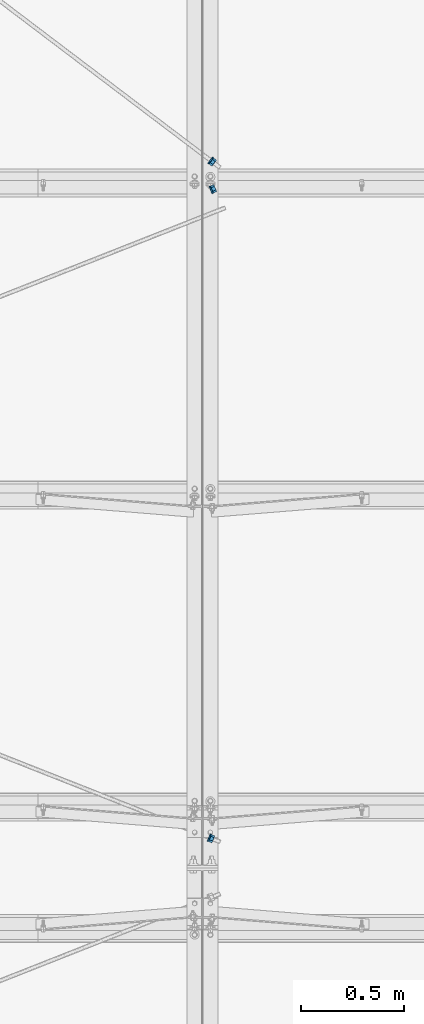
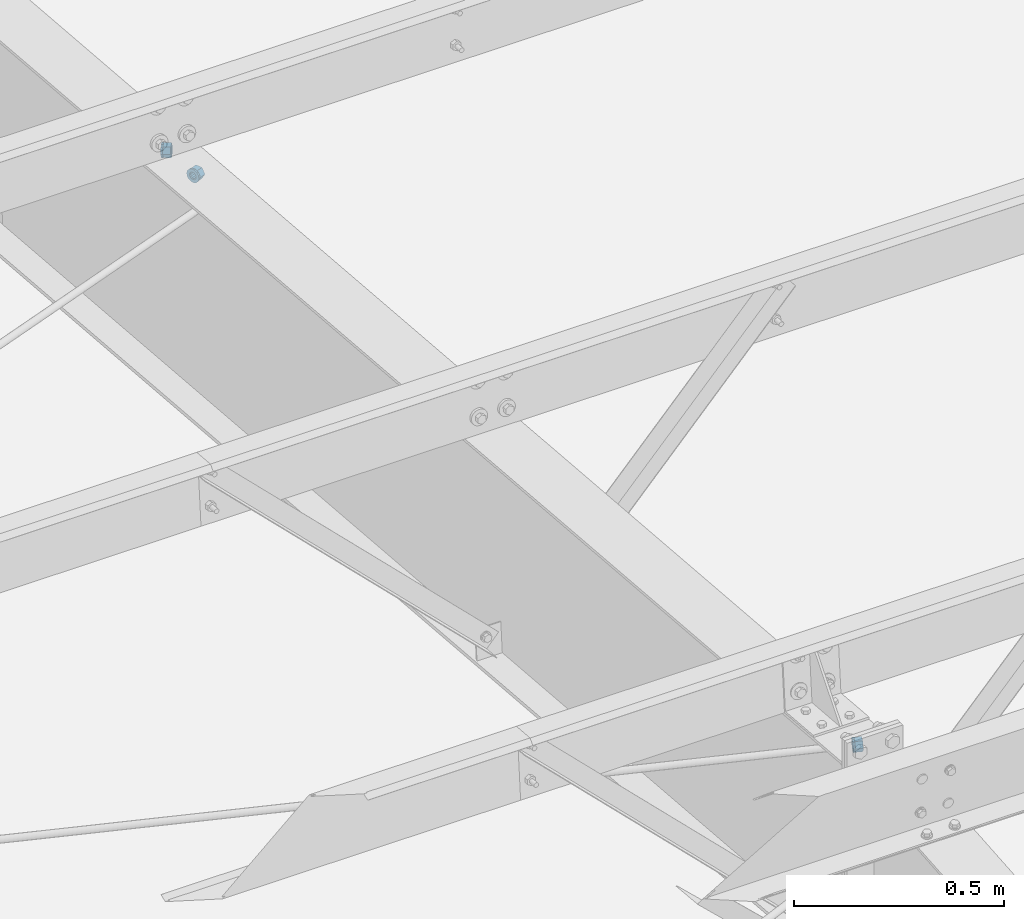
# One storey, part 35 of 185: 6 beams, 6 elements without a shape of their own.
"""IFC2X3 building model written with IfcOpenShell, lengths in millimetres."""

from ifc_helpers import new_model, si_unit, frame, origin_with_axes, place, context, subcontext, project, spatial, polyline, outline, extrude, material, type_object, element, aggregate, save


model = new_model("IFC2X3")

# Units and contexts
model_context = context("Model", 3, precision=1e-05, world=origin_with_axes())
body_context = subcontext(model_context, "Body", "Model", "MODEL_VIEW")
ifc_project = project(units=[si_unit("LENGTHUNIT", "METRE", prefix="MILLI"), si_unit("AREAUNIT", "SQUARE_METRE"), si_unit("VOLUMEUNIT", "CUBIC_METRE"), si_unit("MASSUNIT", "GRAM", prefix="KILO"), si_unit("TIMEUNIT", "SECOND"), si_unit("PLANEANGLEUNIT", "RADIAN"), si_unit("SOLIDANGLEUNIT", "STERADIAN"), si_unit("THERMODYNAMICTEMPERATUREUNIT", "DEGREE_CELSIUS"), si_unit("LUMINOUSINTENSITYUNIT", "LUMEN")], contexts=[model_context])

# Site, building, storey
site_placement = place(None, origin_with_axes())
site = spatial("IfcSite", under=ifc_project, at=site_placement, Name="Undefined", CompositionType="ELEMENT")
building_placement = place(site_placement, origin_with_axes())
building = spatial("IfcBuilding", under=site, at=building_placement, Name="Undefined", CompositionType="ELEMENT")
storey_placement = place(building_placement, origin_with_axes())
storey = spatial("IfcBuildingStorey", under=building, at=storey_placement, Name="Undefined", CompositionType="ELEMENT", Elevation=0.0)

# Assembly, beam
assembly_1_placement = place(storey_placement, origin_with_axes())
assembly_1 = element("IfcElementAssembly", 1, at=assembly_1_placement, inside=storey, Name="Steel Assembly", AssemblyPlace="NOTDEFINED", PredefinedType="RIGID_FRAME")
ifc_material = material(Name="STEEL/55")
beam_type_1 = type_object("IfcBeamType", Name="3/4_HEAVY_HEX_NUT", PredefinedType="NOTDEFINED")
beam_1_placement = place(assembly_1_placement, frame((14903.0751335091, 19301.476985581, 6891.6854132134), z_axis=(0.028926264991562, 0.0123836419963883, 0.999504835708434), x_axis=(0.925462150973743, 0.377531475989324, -0.0314609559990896)))
beam_1 = element("IfcBeam", 2, at=beam_1_placement, type_object=beam_type_1, material=ifc_material, Name="3/4 H HEX NUT A563", ObjectType="3/4_HEAVY_HEX_NUT", context=body_context, shape_type="SweptSolid", body=[
    extrude(outline(polyline([(9.13000011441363, -15.810000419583), (-9.13000011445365, -15.810000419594), (-18.2600002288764, 1.54614099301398e-11), (-9.13000011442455, 15.8100004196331), (9.13000011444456, 15.8100004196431), (18.2600002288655, 3.36513039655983e-11), (9.13000011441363, -15.810000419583)]), holes=[polyline([(-8.06850066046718, 6.43441456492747), (-10.061255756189, 2.29641597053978), (-10.0612557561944, -2.29641597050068), (-8.06850066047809, -6.43441456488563), (-4.47768005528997, -9.29799844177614), (-1.09139364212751e-11, -10.3199996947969), (4.47768005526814, -9.29799844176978), (8.0685006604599, -6.43441456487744), (10.0612557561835, -2.29641597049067), (10.0612557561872, 2.2964159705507), (8.06850066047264, 6.43441456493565), (4.47768005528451, 9.29799844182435), (7.27595761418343e-12, 10.319999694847), (-4.47768005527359, 9.2979984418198), (-8.06850066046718, 6.43441456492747)])]), frame((19.0500000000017, 0.0, 2.58175642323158e-19), z_axis=(-1.0, 0.0, 0.0), x_axis=(0.0, -1.0, 0.0)), (0.0, 0.0, 1.0), 19.0),
])
aggregate(assembly_1, [beam_1])

assembly_2_placement = place(storey_placement, origin_with_axes())
assembly_2 = element("IfcElementAssembly", 3, at=assembly_2_placement, inside=storey, Name="Steel Assembly", AssemblyPlace="NOTDEFINED", PredefinedType="RIGID_FRAME")
beam_2_placement = place(assembly_2_placement, frame((14894.2394819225, 16147.9208032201, 7154.48176375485), z_axis=(0.0288458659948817, -0.0128671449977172, -0.999501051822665), x_axis=(0.924920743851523, -0.378846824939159, 0.0315705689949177)))
beam_2 = element("IfcBeam", 4, at=beam_2_placement, type_object=beam_type_1, material=ifc_material, Name="3/4 H HEX NUT A563", ObjectType="3/4_HEAVY_HEX_NUT", context=body_context, shape_type="SweptSolid", body=[
    extrude(outline(polyline([(9.13000011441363, -15.810000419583), (-9.13000011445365, -15.810000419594), (-18.2600002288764, 1.54614099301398e-11), (-9.13000011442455, 15.8100004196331), (9.13000011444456, 15.8100004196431), (18.2600002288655, 3.36513039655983e-11), (9.13000011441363, -15.810000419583)]), holes=[polyline([(-8.06850066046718, 6.43441456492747), (-10.061255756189, 2.29641597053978), (-10.0612557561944, -2.29641597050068), (-8.06850066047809, -6.43441456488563), (-4.47768005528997, -9.29799844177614), (-1.09139364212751e-11, -10.3199996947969), (4.47768005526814, -9.29799844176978), (8.0685006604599, -6.43441456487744), (10.0612557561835, -2.29641597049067), (10.0612557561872, 2.2964159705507), (8.06850066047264, 6.43441456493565), (4.47768005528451, 9.29799844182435), (7.27595761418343e-12, 10.319999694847), (-4.47768005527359, 9.2979984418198), (-8.06850066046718, 6.43441456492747)])]), frame((19.0500000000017, 0.0, 2.58175642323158e-19), z_axis=(-1.0, 0.0, 0.0), x_axis=(0.0, -1.0, 0.0)), (0.0, 0.0, 1.0), 19.0),
])
aggregate(assembly_2, [beam_2])

assembly_3_placement = place(storey_placement, origin_with_axes())
assembly_3 = element("IfcElementAssembly", 5, at=assembly_3_placement, inside=storey, Name="Steel Assembly", AssemblyPlace="NOTDEFINED", PredefinedType="RIGID_FRAME")
beam_3_placement = place(assembly_3_placement, frame((14900.7089450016, 19441.7536639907, 6879.9956867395), z_axis=(0.0397310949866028, -0.0307690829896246, -0.998736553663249), x_axis=(0.796162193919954, -0.602993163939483, 0.0502494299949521)))
beam_3 = element("IfcBeam", 6, at=beam_3_placement, type_object=beam_type_1, material=ifc_material, Name="3/4 H HEX NUT A563", ObjectType="3/4_HEAVY_HEX_NUT", context=body_context, shape_type="SweptSolid", body=[
    extrude(outline(polyline([(9.13000011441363, -15.810000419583), (-9.13000011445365, -15.810000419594), (-18.2600002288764, 1.54614099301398e-11), (-9.13000011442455, 15.8100004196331), (9.13000011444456, 15.8100004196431), (18.2600002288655, 3.36513039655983e-11), (9.13000011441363, -15.810000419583)]), holes=[polyline([(-8.06850066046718, 6.43441456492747), (-10.061255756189, 2.29641597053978), (-10.0612557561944, -2.29641597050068), (-8.06850066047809, -6.43441456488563), (-4.47768005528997, -9.29799844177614), (-1.09139364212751e-11, -10.3199996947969), (4.47768005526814, -9.29799844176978), (8.0685006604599, -6.43441456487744), (10.0612557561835, -2.29641597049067), (10.0612557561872, 2.2964159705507), (8.06850066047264, 6.43441456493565), (4.47768005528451, 9.29799844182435), (7.27595761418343e-12, 10.319999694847), (-4.47768005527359, 9.2979984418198), (-8.06850066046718, 6.43441456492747)])]), frame((19.0500000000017, 0.0, 2.58175642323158e-19), z_axis=(-1.0, 0.0, 0.0), x_axis=(0.0, -1.0, 0.0)), (0.0, 0.0, 1.0), 19.0),
])
aggregate(assembly_3, [beam_3])

assembly_4_placement = place(storey_placement, origin_with_axes())
assembly_4 = element("IfcElementAssembly", 7, at=assembly_4_placement, inside=storey, Name="Steel Assembly", AssemblyPlace="NOTDEFINED", PredefinedType="RIGID_FRAME")
beam_type_2 = type_object("IfcBeamType", Name="3/4_WASHER", PredefinedType="NOTDEFINED")
beam_4_placement = place(assembly_4_placement, frame((14898.6676200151, 19299.6789919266, 6891.83524601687), z_axis=(0.028926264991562, 0.0123836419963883, 0.999504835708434), x_axis=(0.925462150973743, 0.377531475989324, -0.0314609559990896)))
beam_4 = element("IfcBeam", 8, at=beam_4_placement, type_object=beam_type_2, material=ifc_material, Name="3/4 WASHER F844", ObjectType="3/4_WASHER", context=body_context, shape_type="SweptSolid", body=[
    extrude(outline(polyline([(-11.6280845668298, -14.5811568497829), (-16.8030690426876, -8.09193156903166), (-18.649999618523, -4.54747350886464e-12), (-16.8030690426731, 8.09193156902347), (-11.6280845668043, 14.5811568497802), (-4.15001533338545, 18.1824051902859), (4.15001533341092, 18.1824051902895), (11.628084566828, 14.5811568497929), (16.8030690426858, 8.09193156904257), (18.6499996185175, 1.45519152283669e-11), (16.8030690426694, -8.09193156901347), (11.6280845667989, -14.5811568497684), (4.15001533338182, -18.182405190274), (-4.15001533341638, -18.1824051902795), (-11.6280845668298, -14.5811568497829)]), holes=[polyline([(-8.06850066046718, 6.43441456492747), (-10.061255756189, 2.29641597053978), (-10.0612557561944, -2.29641597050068), (-8.06850066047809, -6.43441456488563), (-4.47768005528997, -9.29799844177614), (-1.09139364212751e-11, -10.3199996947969), (4.47768005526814, -9.29799844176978), (8.0685006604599, -6.43441456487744), (10.0612557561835, -2.29641597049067), (10.0612557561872, 2.2964159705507), (8.06850066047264, 6.43441456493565), (4.47768005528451, 9.29799844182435), (7.27595761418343e-12, 10.319999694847), (-4.47768005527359, 9.2979984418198), (-8.06850066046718, 6.43441456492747)])]), frame((4.76250000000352, 2.6437185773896e-16, 5.6843418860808e-14), z_axis=(-1.0, 0.0, 0.0), x_axis=(0.0, -1.0, 0.0)), (0.0, 0.0, 1.0), 4.8),
])
aggregate(assembly_4, [beam_4])

assembly_5_placement = place(storey_placement, origin_with_axes())
assembly_5 = element("IfcElementAssembly", 9, at=assembly_5_placement, inside=storey, Name="Steel Assembly", AssemblyPlace="NOTDEFINED", PredefinedType="RIGID_FRAME")
beam_5_placement = place(assembly_5_placement, frame((14889.8345468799, 16149.7250612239, 7154.33140892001), z_axis=(0.0288458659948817, -0.0128671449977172, -0.999501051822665), x_axis=(0.924920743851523, -0.378846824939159, 0.0315705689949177)))
beam_5 = element("IfcBeam", 10, at=beam_5_placement, type_object=beam_type_2, material=ifc_material, Name="3/4 WASHER F844", ObjectType="3/4_WASHER", context=body_context, shape_type="SweptSolid", body=[
    extrude(outline(polyline([(-11.6280845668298, -14.5811568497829), (-16.8030690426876, -8.09193156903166), (-18.649999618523, -4.54747350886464e-12), (-16.8030690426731, 8.09193156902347), (-11.6280845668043, 14.5811568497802), (-4.15001533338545, 18.1824051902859), (4.15001533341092, 18.1824051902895), (11.628084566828, 14.5811568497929), (16.8030690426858, 8.09193156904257), (18.6499996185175, 1.45519152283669e-11), (16.8030690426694, -8.09193156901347), (11.6280845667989, -14.5811568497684), (4.15001533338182, -18.182405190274), (-4.15001533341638, -18.1824051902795), (-11.6280845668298, -14.5811568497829)]), holes=[polyline([(-8.06850066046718, 6.43441456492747), (-10.061255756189, 2.29641597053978), (-10.0612557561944, -2.29641597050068), (-8.06850066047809, -6.43441456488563), (-4.47768005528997, -9.29799844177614), (-1.09139364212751e-11, -10.3199996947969), (4.47768005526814, -9.29799844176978), (8.0685006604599, -6.43441456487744), (10.0612557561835, -2.29641597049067), (10.0612557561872, 2.2964159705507), (8.06850066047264, 6.43441456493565), (4.47768005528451, 9.29799844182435), (7.27595761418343e-12, 10.319999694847), (-4.47768005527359, 9.2979984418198), (-8.06850066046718, 6.43441456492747)])]), frame((4.76250000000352, 2.6437185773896e-16, 5.6843418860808e-14), z_axis=(-1.0, 0.0, 0.0), x_axis=(0.0, -1.0, 0.0)), (0.0, 0.0, 1.0), 4.8),
])
aggregate(assembly_5, [beam_5])

assembly_6_placement = place(storey_placement, origin_with_axes())
assembly_6 = element("IfcElementAssembly", 11, at=assembly_6_placement, inside=storey, Name="Steel Assembly", AssemblyPlace="NOTDEFINED", PredefinedType="RIGID_FRAME")
beam_6_placement = place(assembly_6_placement, frame((14896.9172225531, 19444.6254189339, 6879.75637382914), z_axis=(0.0397310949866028, -0.0307690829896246, -0.998736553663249), x_axis=(0.796162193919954, -0.602993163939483, 0.0502494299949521)))
beam_6 = element("IfcBeam", 12, at=beam_6_placement, type_object=beam_type_2, material=ifc_material, Name="3/4 WASHER F844", ObjectType="3/4_WASHER", context=body_context, shape_type="SweptSolid", body=[
    extrude(outline(polyline([(-11.6280845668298, -14.5811568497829), (-16.8030690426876, -8.09193156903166), (-18.649999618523, -4.54747350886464e-12), (-16.8030690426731, 8.09193156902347), (-11.6280845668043, 14.5811568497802), (-4.15001533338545, 18.1824051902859), (4.15001533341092, 18.1824051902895), (11.628084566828, 14.5811568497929), (16.8030690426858, 8.09193156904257), (18.6499996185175, 1.45519152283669e-11), (16.8030690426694, -8.09193156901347), (11.6280845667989, -14.5811568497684), (4.15001533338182, -18.182405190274), (-4.15001533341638, -18.1824051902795), (-11.6280845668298, -14.5811568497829)]), holes=[polyline([(-8.06850066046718, 6.43441456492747), (-10.061255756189, 2.29641597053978), (-10.0612557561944, -2.29641597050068), (-8.06850066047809, -6.43441456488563), (-4.47768005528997, -9.29799844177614), (-1.09139364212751e-11, -10.3199996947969), (4.47768005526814, -9.29799844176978), (8.0685006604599, -6.43441456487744), (10.0612557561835, -2.29641597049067), (10.0612557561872, 2.2964159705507), (8.06850066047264, 6.43441456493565), (4.47768005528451, 9.29799844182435), (7.27595761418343e-12, 10.319999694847), (-4.47768005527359, 9.2979984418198), (-8.06850066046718, 6.43441456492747)])]), frame((4.76250000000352, 2.6437185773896e-16, 5.6843418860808e-14), z_axis=(-1.0, 0.0, 0.0), x_axis=(0.0, -1.0, 0.0)), (0.0, 0.0, 1.0), 4.8),
])
aggregate(assembly_6, [beam_6])

save(model, "model.ifc")
